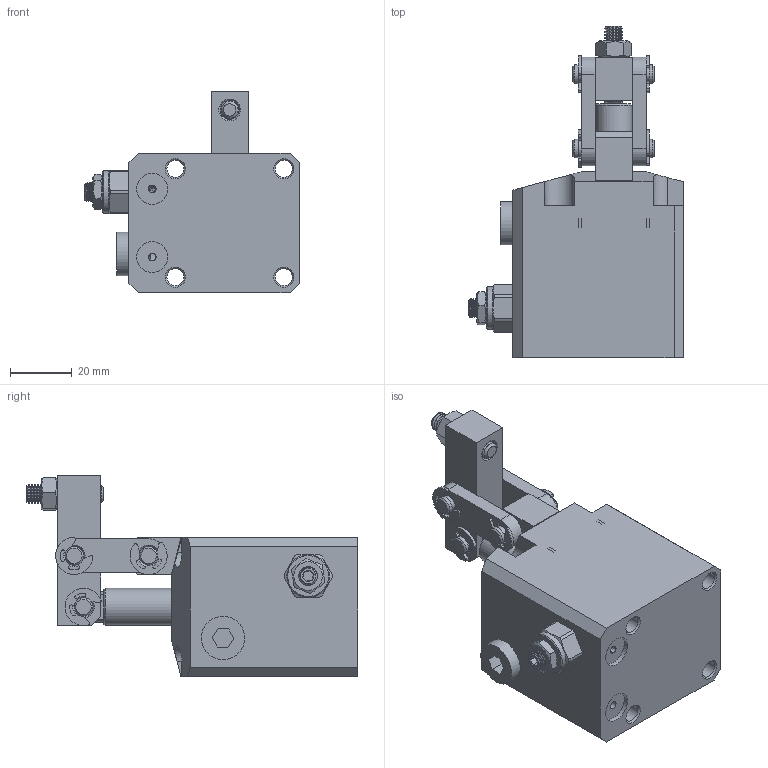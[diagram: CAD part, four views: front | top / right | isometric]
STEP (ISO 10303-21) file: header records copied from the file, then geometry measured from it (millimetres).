
FILE_DESCRIPTION(/* description */ ('STEP AP203'),/* implementation_level */ '2;1');
FILE_NAME(/* name */ 'D:\Vault_2016\Projekty\Clamptek\Hydraulic\CBLU\CBLU-25\STEP\CBLU-25CR.stp',/* time_stamp */ '2021-05-06T11:55:14+02:00',/* author */ ('user'),/* organization */ (''),/* preprocessor_version */ 'ST-DEVELOPER v18.1',/* originating_system */ 'Autodesk Inventor 2021',/* authorisation */ '');
FILE_SCHEMA (('AUTOMOTIVE_DESIGN { 1 0 10303 214 3 1 1 }'));
Products named in the file (12): CBLU-25CR; CR±¾Ìå_1_1; »îÈû¸Ë_1_1; Ñ¹±Û_1; Á¬¸Ë_1; hex nuts, style 1-grades ab gb_GB_FASTENER_NUT_SNAB1 M6-N_1; ¶ÌÏúÖá_1; socket set screw flat point_iso2_ISO 4026 - M6 x 4-S_1; ÄÚÁù½Ç¶ÂÍ·×
îÐÂ_1; CZL10µ÷ËÙ·§_1_1; ³¤ÏúÖá_1; e rings gb_GB_CONNECTING_PIECE_RINGS_HR 6_1
Assembly tree (21 placements, depth 2):
  CBLU-25CR
    CR±¾Ìå_1_1
    »îÈû¸Ë_1_1
    Ñ¹±Û_1
    Á¬¸Ë_1  x2
    hex nuts, style 1-grades ab gb_GB_FASTENER_NUT_SNAB1 M6-N_1
    e rings gb_GB_CONNECTING_PIECE_RINGS_HR 6_1  x9
    ³¤ÏúÖá_1  x2
    ¶ÌÏúÖá_1
    socket set screw flat point_iso2_ISO 4026 - M6 x 4-S_1
    ÄÚÁù½Ç¶ÂÍ·×
îÐÂ_1
    CZL10µ÷ËÙ·§_1_1
Bounding box: 69.3 x 107 x 65 mm (x, y, z)
Volume: 142794.9 mm3; surface area: 43566.1 mm2
Topology: 26 solids, 26 shells, 721 faces, 1890 edges, 1241 vertices
Faces by surface type: cylinder 292, plane 243, cone 124, bspline 47, torus 15
Full cylindrical faces by diameter (mm): 1 x6, 1.6 x1, 2 x2, 2.5 x1, 3.3 x1, 3.8 x1, 4.917 x5, 5 x8, 5.5 x4, 5.6 x1, 6 x81, 6.1 x1, 7 x1, 8 x1, 8.7 x1, 8.8 x1, 9 x3, 10 x2, 12 x2, 12.6 x1, 12.7 x1, 13.8 x1, 14 x1, 19.222 x1, 20 x1, 25 x1, 30 x1, 32 x1
Entity records: 39535 total; most frequent: CARTESIAN_POINT 26166, ORIENTED_EDGE 2798, DIRECTION 2631, EDGE_CURVE 1399, AXIS2_PLACEMENT_3D 1020, VERTEX_POINT 916, EDGE_LOOP 611, LINE 591
